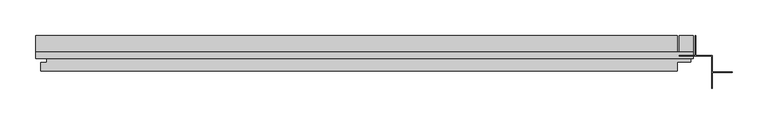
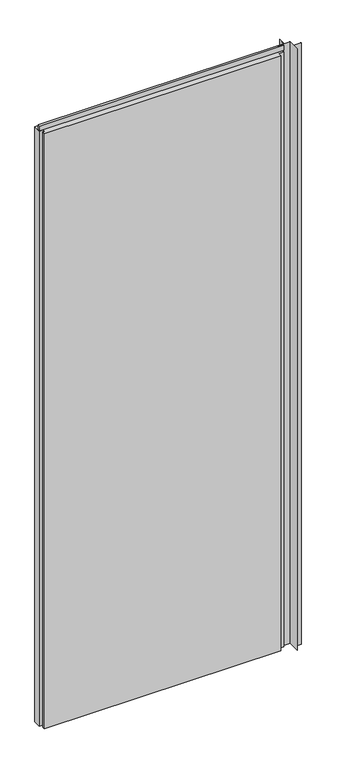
"""IFC4 building model written with IfcOpenShell, lengths in millimetres: plate geometry, Trimo_Qbiss Screen_Normal Panel-VERTICAL : HR - FB."""

from ifc_helpers import new_model, si_unit, frame, origin, place, context, project, spatial, polyline, outline, extrude, source, transform, mapped, element, save


def plate_ba954cb5(model_context):
    return source(origin(), model_context, "Body", "SweptSolid", [
        extrude(outline(polyline([(496.0, 97.0), (477.0, 97.0), (477.0, 126.0), (496.0, 126.0), (496.0, 97.0)])), frame((0.0, 0.0, 12.5), z_axis=(0.0, 0.0, 1.0), x_axis=(1.0, 0.0, 0.0)), (0.0, 0.0, 1.0), 2375.0),
        extrude(outline(polyline([(-425.0, 93.9), (-425.0, 102.6), (496.0, 102.6), (496.0, 93.9), (-425.0, 93.9)])), frame((0.0, 0.0, 2390.5), z_axis=(0.0, 0.0, 1.0), x_axis=(1.0, 0.0, 0.0)), (0.0, 0.0, 1.0), 19.0),
        extrude(outline(polyline([(474.0, 97.0), (492.5, 97.0), (492.5, 89.0), (474.0, 89.0), (474.0, 76.0), (-418.0, 76.0), (-418.0, 88.0), (-409.5, 88.0), (-409.5, 98.0), (-425.0, 98.0), (-425.0, 126.0), (474.0, 126.0), (474.0, 97.0)])), frame((0.0, 0.0, 12.5), z_axis=(0.0, 0.0, 1.0), x_axis=(1.0, 0.0, 0.0)), (0.0, 0.0, 1.0), 2375.0),
        extrude(outline(polyline([(499.0, 126.0), (499.8, 126.0), (499.8, 97.8), (522.8, 97.8), (522.8, 74.8), (551.0, 74.8), (551.0, 74.0), (522.8, 74.0), (522.8, 52.0), (522.0, 52.0), (522.0, 97.0), (477.0, 97.0), (477.0, 97.8), (499.0, 97.8), (499.0, 126.0)])), frame((0.0, 0.0, 12.5), z_axis=(0.0, 0.0, 1.0), x_axis=(1.0, 0.0, 0.0)), (0.0, 0.0, 1.0), 2400.0),
    ])


if __name__ == "__main__":
    model = new_model("IFC4")
    model_context = context("Model", 3, world=origin())
    ifc_project = project(units=[si_unit("LENGTHUNIT", "METRE", prefix="MILLI")], contexts=[model_context])
    site = spatial("IfcSite", under=ifc_project)
    building = spatial("IfcBuilding", under=site)
    placement = place(None, origin())
    plate_shape = plate_ba954cb5(model_context)
    element("IfcPlate", 1, ObjectType="Trimo_Qbiss Screen_Normal Panel-VERTICAL : HR - FB", at=placement, inside=building, context=model_context, shape_type="MappedRepresentation", body=[
        mapped(plate_shape, transform((0.0, 0.0, 0.0), x_axis=(1.0, 0.0, 0.0), y_axis=(0.0, 1.0, 0.0), z_axis=(0.0, 0.0, 1.0))),
    ])
    save(model, "model.ifc")
